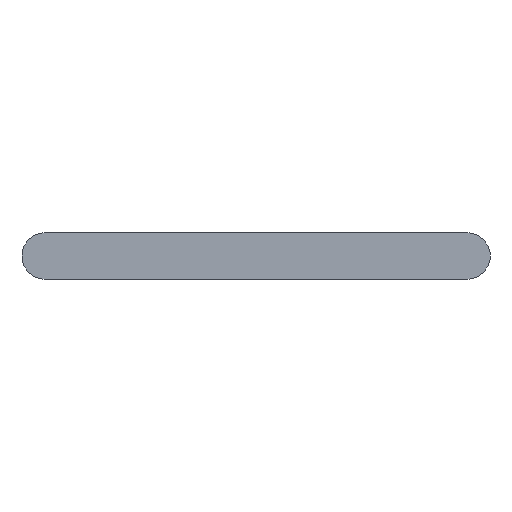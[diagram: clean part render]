
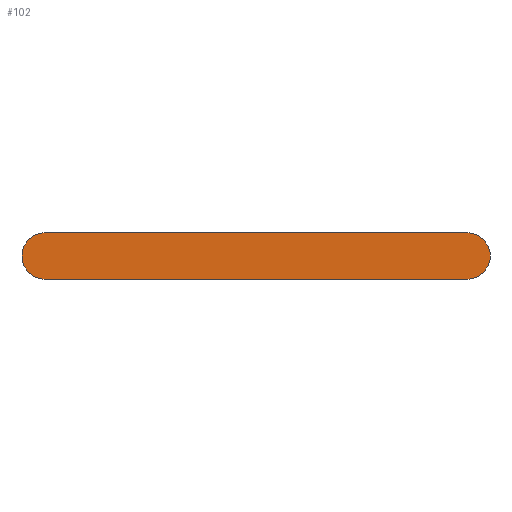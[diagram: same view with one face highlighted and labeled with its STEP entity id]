
A CAD part, front view. The second image highlights one B-rep face of the part: STEP entity #102.
In plain terms, the highlighted planar face has unit normal (0, -1, 0).
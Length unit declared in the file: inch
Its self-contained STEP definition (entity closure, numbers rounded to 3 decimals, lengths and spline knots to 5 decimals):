
#15=CIRCLE('',#119,0.0465);
#17=CIRCLE('',#123,0.0465);
#26=FACE_OUTER_BOUND('',#32,.T.);
#32=EDGE_LOOP('',(#89,#90,#91,#92));
#33=LINE('',#161,#41);
#38=LINE('',#175,#46);
#41=VECTOR('',#131,0.3937);
#46=VECTOR('',#144,0.3937);
#49=VERTEX_POINT('',#159);
#50=VERTEX_POINT('',#160);
#53=VERTEX_POINT('',#168);
#55=VERTEX_POINT('',#174);
#57=EDGE_CURVE('',#49,#50,#33,.T.);
#61=EDGE_CURVE('',#53,#49,#15,.T.);
#64=EDGE_CURVE('',#55,#53,#38,.T.);
#67=EDGE_CURVE('',#50,#55,#17,.T.);
#89=ORIENTED_EDGE('',*,*,#67,.F.);
#90=ORIENTED_EDGE('',*,*,#57,.F.);
#91=ORIENTED_EDGE('',*,*,#61,.F.);
#92=ORIENTED_EDGE('',*,*,#64,.F.);
#96=PLANE('',#126);
#102=ADVANCED_FACE('',(#26),#96,.F.);
#119=AXIS2_PLACEMENT_3D('',#169,#137,#138);
#123=AXIS2_PLACEMENT_3D('',#180,#149,#150);
#126=AXIS2_PLACEMENT_3D('',#183,#155,#156);
#131=DIRECTION('',(-1.,0.,0.));
#137=DIRECTION('center_axis',(0.,1.,0.));
#138=DIRECTION('ref_axis',(0.,0.,1.));
#144=DIRECTION('',(1.,0.,0.));
#149=DIRECTION('center_axis',(0.,1.,0.));
#150=DIRECTION('ref_axis',(0.,0.,-1.));
#155=DIRECTION('center_axis',(0.,1.,0.));
#156=DIRECTION('ref_axis',(1.,0.,0.));
#159=CARTESIAN_POINT('',(0.8855,0.,-0.0465));
#160=CARTESIAN_POINT('',(0.0465,0.,-0.0465));
#161=CARTESIAN_POINT('',(0.8855,0.,-0.0465));
#168=CARTESIAN_POINT('',(0.8855,0.,0.0465));
#169=CARTESIAN_POINT('Origin',(0.8855,0.,0.));
#174=CARTESIAN_POINT('',(0.0465,0.,0.0465));
#175=CARTESIAN_POINT('',(0.0465,0.,0.0465));
#180=CARTESIAN_POINT('Origin',(0.0465,0.,0.));
#183=CARTESIAN_POINT('Origin',(0.466,0.,0.));
